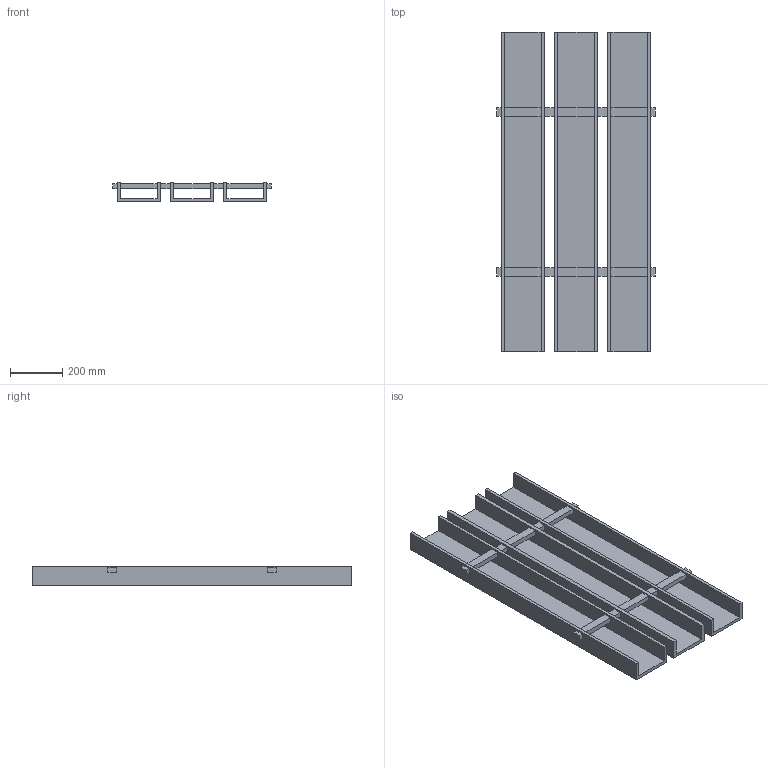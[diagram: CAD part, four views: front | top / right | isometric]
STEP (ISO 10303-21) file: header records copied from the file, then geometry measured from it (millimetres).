
FILE_DESCRIPTION(/* description */ (''),/* implementation_level */ '2;1');
FILE_NAME(/* name */ 'PET GRILLA_6.5x3_4ft',/* time_stamp */ '2024-10-15T14:22:38-05:00',/* author */ (''),/* organization */ (''),/* preprocessor_version */ 'ST-DEVELOPER v19.2',/* originating_system */ 'Rhino 8.4',/* authorisation */ '');
FILE_SCHEMA (('CONFIG_CONTROL_DESIGN'));
Length unit declared in the file: inch
Products named in the file (1): Document
Bounding box: 603.25 x 1219.2 x 76.2 mm (x, y, z)
Volume: 14206048.2 mm3; surface area: 2346930.8 mm2
Topology: 1 solids, 1 shells, 90 faces, 240 edges, 160 vertices
Faces by surface type: plane 90
Entity records: 2534 total; most frequent: CARTESIAN_POINT 732, ORIENTED_EDGE 480, EDGE_CURVE 240, B_SPLINE_CURVE_WITH_KNOTS 240, VERTEX_POINT 160, EDGE_LOOP 114, DIRECTION 94, AXIS2_PLACEMENT_3D 92
